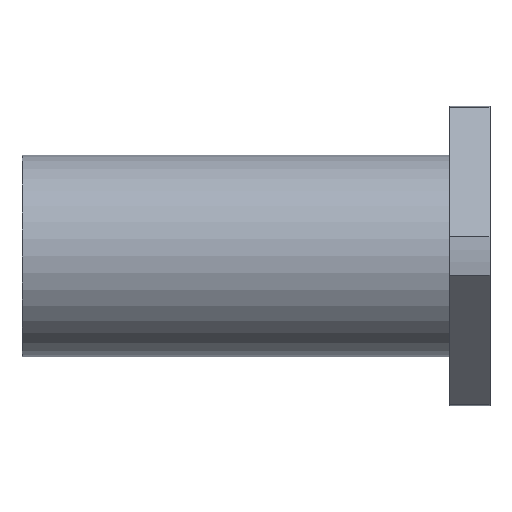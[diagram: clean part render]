
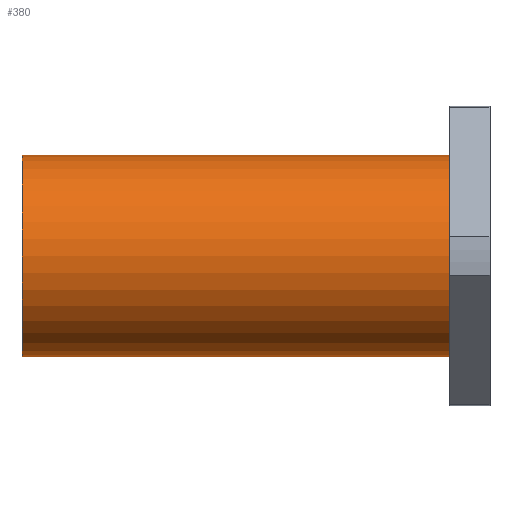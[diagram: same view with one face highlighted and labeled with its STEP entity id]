
A CAD part, front view. The second image highlights one B-rep face of the part: STEP entity #380.
In plain terms, the highlighted cylindrical face has radius 45 mm (diameter 90 mm), a full revolution.
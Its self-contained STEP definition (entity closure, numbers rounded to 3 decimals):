
#83=ORIENTED_EDGE('',*,*,#171,.T.);
#84=ORIENTED_EDGE('',*,*,#172,.F.);
#171=EDGE_CURVE('',#215,#215,#245,.T.);
#172=EDGE_CURVE('',#216,#216,#246,.T.);
#215=VERTEX_POINT('',#638);
#216=VERTEX_POINT('',#640);
#245=CIRCLE('',#433,45.);
#246=CIRCLE('',#434,45.);
#270=EDGE_LOOP('',(#83));
#271=EDGE_LOOP('',(#84));
#320=FACE_BOUND('',#270,.T.);
#321=FACE_BOUND('',#271,.T.);
#362=CYLINDRICAL_SURFACE('',#432,45.);
#380=ADVANCED_FACE('',(#320,#321),#362,.T.);
#432=AXIS2_PLACEMENT_3D('',#636,#514,#515);
#433=AXIS2_PLACEMENT_3D('',#637,#516,#517);
#434=AXIS2_PLACEMENT_3D('',#639,#518,#519);
#514=DIRECTION('',(-1.,0.,0.));
#515=DIRECTION('',(0.,0.,1.));
#516=DIRECTION('',(1.,0.,0.));
#517=DIRECTION('',(0.,0.,-1.));
#518=DIRECTION('',(1.,0.,0.));
#519=DIRECTION('',(0.,0.,-1.));
#636=CARTESIAN_POINT('',(104.5,0.,0.));
#637=CARTESIAN_POINT('',(-104.5,0.,0.));
#638=CARTESIAN_POINT('',(-104.5,0.,-45.));
#639=CARTESIAN_POINT('',(86.5,0.,0.));
#640=CARTESIAN_POINT('',(86.5,0.,-45.));
